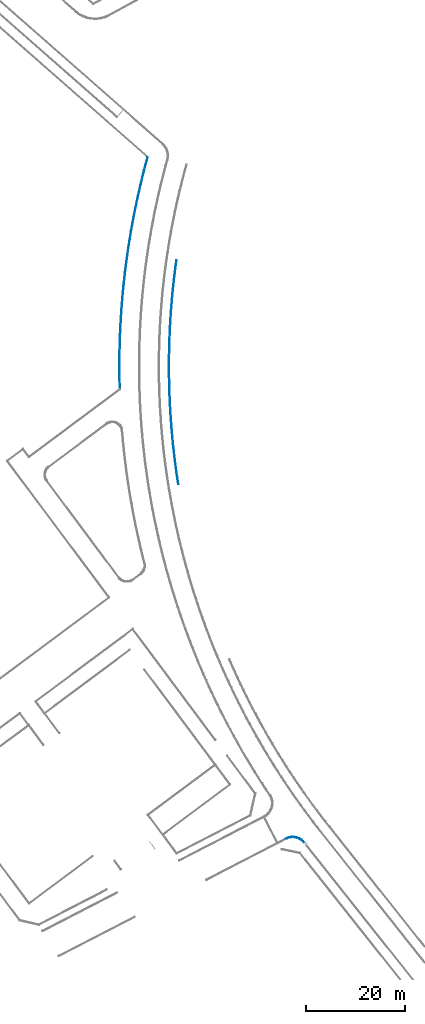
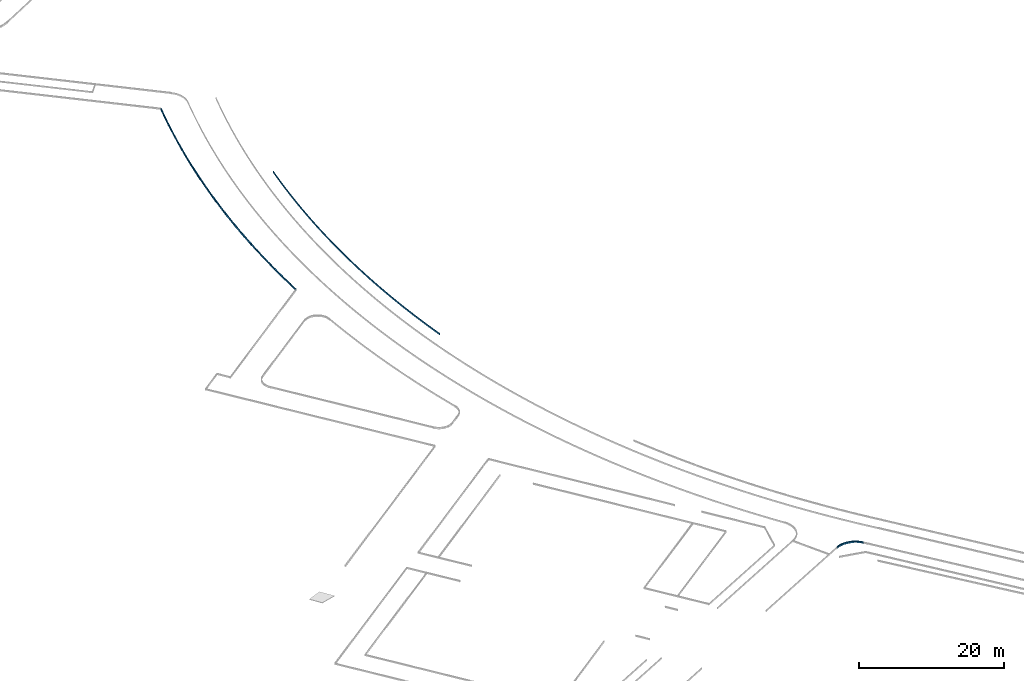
# One storey, part 19 of 24: 3 beams.
"""IFC2X3 building model written with IfcOpenShell, lengths in millimetres."""

from ifc_helpers import new_model, entity, si_unit, converted_unit, derived_unit, direction, frame, origin, place, context, subcontext, project, spatial, faceted_brep, material, type_object, element, save


model = new_model("IFC2X3")

# Units and contexts
model_context = context("Model", 3, precision=0.01, world=origin(), true_north=direction((6.123031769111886e-17, 1.0)))
body_context = subcontext(model_context, "Body", "Model", "MODEL_VIEW")
ifc_project = project(units=[si_unit("LENGTHUNIT", "METRE", prefix="MILLI"), si_unit("AREAUNIT", "SQUARE_METRE"), si_unit("VOLUMEUNIT", "CUBIC_METRE"), converted_unit("PLANEANGLEUNIT", "DEGREE", entity("IfcRatioMeasure", 0.017453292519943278), si_unit("PLANEANGLEUNIT", "RADIAN"), dimensions=[0, 0, 0, 0, 0, 0, 0]), si_unit("MASSUNIT", "GRAM", prefix="KILO"), derived_unit("MASSDENSITYUNIT", [(si_unit("MASSUNIT", "GRAM", prefix="KILO"), 1), (si_unit("LENGTHUNIT", "METRE"), -3)]), derived_unit("MOMENTOFINERTIAUNIT", [(si_unit("LENGTHUNIT", "METRE"), 4)]), si_unit("TIMEUNIT", "SECOND"), si_unit("FREQUENCYUNIT", "HERTZ"), si_unit("THERMODYNAMICTEMPERATUREUNIT", "DEGREE_CELSIUS"), derived_unit("THERMALTRANSMITTANCEUNIT", [(si_unit("MASSUNIT", "GRAM", prefix="KILO"), 1), (si_unit("THERMODYNAMICTEMPERATUREUNIT", "KELVIN"), -1), (si_unit("TIMEUNIT", "SECOND"), -3)]), derived_unit("THERMALCONDUCTANCEUNIT", [(si_unit("MASSUNIT", "GRAM", prefix="KILO"), 1), (si_unit("LENGTHUNIT", "METRE"), 1), (si_unit("THERMODYNAMICTEMPERATUREUNIT", "KELVIN"), -1), (si_unit("TIMEUNIT", "SECOND"), -3)]), derived_unit("VOLUMETRICFLOWRATEUNIT", [(si_unit("LENGTHUNIT", "METRE"), 3), (si_unit("TIMEUNIT", "SECOND"), -1)]), derived_unit("MASSFLOWRATEUNIT", [(si_unit("MASSUNIT", "GRAM", prefix="KILO"), 1), (si_unit("TIMEUNIT", "SECOND"), -1)]), derived_unit("ROTATIONALFREQUENCYUNIT", [(si_unit("TIMEUNIT", "SECOND"), -1)]), si_unit("ELECTRICCURRENTUNIT", "AMPERE"), si_unit("ELECTRICVOLTAGEUNIT", "VOLT"), si_unit("POWERUNIT", "WATT"), converted_unit("FORCEUNIT", "KIP", entity("IfcRatioMeasure", 2.088543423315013e-05), si_unit("FORCEUNIT", "NEWTON"), dimensions=[1, 1, -2, 0, 0, 0, 0]), si_unit("ILLUMINANCEUNIT", "LUX"), si_unit("LUMINOUSFLUXUNIT", "LUMEN"), si_unit("LUMINOUSINTENSITYUNIT", "CANDELA"), derived_unit("USERDEFINED", [(si_unit("MASSUNIT", "GRAM", prefix="KILO"), -1), (si_unit("LENGTHUNIT", "METRE"), -2), (si_unit("TIMEUNIT", "SECOND"), 3), (si_unit("LUMINOUSFLUXUNIT", "LUMEN"), 1)]), derived_unit("USERDEFINED", [(si_unit("MASSUNIT", "GRAM", prefix="KILO"), 1), (si_unit("LENGTHUNIT", "METRE"), 3), (si_unit("TIMEUNIT", "SECOND"), -3), (si_unit("ELECTRICCURRENTUNIT", "AMPERE"), -2)]), derived_unit("USERDEFINED", [(si_unit("LENGTHUNIT", "METRE"), 2), (si_unit("TIMEUNIT", "SECOND"), -2)]), derived_unit("SOUNDPOWERUNIT", [(si_unit("MASSUNIT", "GRAM", prefix="KILO"), 1), (si_unit("LENGTHUNIT", "METRE"), 2), (si_unit("TIMEUNIT", "SECOND"), -3)]), derived_unit("SOUNDPRESSUREUNIT", [(si_unit("MASSUNIT", "GRAM", prefix="KILO"), 1), (si_unit("LENGTHUNIT", "METRE"), -1), (si_unit("TIMEUNIT", "SECOND"), -2)]), derived_unit("LINEARVELOCITYUNIT", [(si_unit("LENGTHUNIT", "METRE"), 1), (si_unit("TIMEUNIT", "SECOND"), -1)]), si_unit("PRESSUREUNIT", "PASCAL"), derived_unit("USERDEFINED", [(si_unit("LENGTHUNIT", "METRE"), -2), (si_unit("MASSUNIT", "GRAM", prefix="KILO"), 1), (si_unit("TIMEUNIT", "SECOND"), -2)]), derived_unit("LINEARFORCEUNIT", [(si_unit("MASSUNIT", "GRAM", prefix="KILO"), 1), (si_unit("LENGTHUNIT", "METRE"), 1), (si_unit("TIMEUNIT", "SECOND"), -2), (si_unit("LENGTHUNIT", "METRE"), -1)]), derived_unit("PLANARFORCEUNIT", [(si_unit("MASSUNIT", "GRAM", prefix="KILO"), 1), (si_unit("LENGTHUNIT", "METRE"), 1), (si_unit("TIMEUNIT", "SECOND"), -2), (si_unit("LENGTHUNIT", "METRE"), -2)]), derived_unit("SPECIFICHEATCAPACITYUNIT", [(si_unit("LENGTHUNIT", "METRE"), 2), (si_unit("TIMEUNIT", "SECOND"), -2), (si_unit("THERMODYNAMICTEMPERATUREUNIT", "KELVIN"), -1)]), derived_unit("VAPORPERMEABILITYUNIT", [(si_unit("TIMEUNIT", "SECOND"), 1), (si_unit("LENGTHUNIT", "METRE"), -1)]), derived_unit("DYNAMICVISCOSITYUNIT", [(si_unit("MASSUNIT", "GRAM", prefix="KILO"), 1), (si_unit("LENGTHUNIT", "METRE"), -1), (si_unit("TIMEUNIT", "SECOND"), -1)]), derived_unit("THERMALEXPANSIONCOEFFICIENTUNIT", [(si_unit("THERMODYNAMICTEMPERATUREUNIT", "KELVIN"), -1)])], contexts=[model_context])

# Site, building, storey
site_placement = place(None, frame((0.0, 0.0, 0.0), z_axis=(0.0, 0.0, 1.0), x_axis=(0.8191520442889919, 0.5735764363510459, 0.0)))
site = spatial("IfcSite", under=ifc_project, at=site_placement, Name="Default", CompositionType="ELEMENT")
building_placement = place(site_placement, origin())
building = spatial("IfcBuilding", under=site, at=building_placement, CompositionType="ELEMENT")
storey_placement = place(building_placement, frame((0.0, 0.0, -1150.0)))
storey = spatial("IfcBuildingStorey", under=building, at=storey_placement, Name="6.EG KH -1.15", CompositionType="ELEMENT", Elevation=-1150.0000000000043)

# Beams
ifc_material = material(Name="Paveta_bordur")
beam_type_1 = type_object("IfcBeamType", Name="Beam-137", PredefinedType="NOTDEFINED")
beam_1_placement = place(storey_placement, frame((-142809.50466419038, 85225.41302990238, 910.0)))
element("IfcBeam", 1, at=beam_1_placement, inside=storey, type_object=beam_type_1, material=ifc_material, Name="Beam-137 237932:Beam-137 237932", ObjectType="Beam-137 237932:Beam-137 237932", context=body_context, shape_type="Brep", body=[
    faceted_brep([(31640.878544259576, 35268.77140396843, 250.0), (31640.878544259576, 35268.77140396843, 0.0), (31577.03952409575, 35345.742694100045, 0.0), (31577.03952409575, 35345.742694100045, 250.0), (1.5952722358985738, 56.51768657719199, 0.0), (85.16278029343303, 1.5952722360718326, 0.0), (85.16278029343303, 1.5952722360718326, 250.0), (1.5952722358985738, 56.51768657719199, 250.0), (9128.534337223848, 12418.570726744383, 0.0), (8257.581605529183, 11326.305158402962, 0.0), (7396.201811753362, 10226.474451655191, 0.0), (6544.460663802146, 9119.162503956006, 0.0), (5702.423134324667, 8004.453783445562, 0.0), (4870.153455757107, 6882.43332250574, 0.0), (4047.715115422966, 5753.186711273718, 0.0), (3235.1708506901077, 4616.800091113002, 0.0), (2432.5826441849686, 3473.3601480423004, 0.0), (1640.0117190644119, 2322.9541061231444, 0.0), (857.5185343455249, 1165.6697208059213, 0.0), (779.5057838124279, 1217.9227549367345, 0.0), (1557.4162953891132, 2379.327823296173, 0.0), (2355.4945042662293, 3526.967866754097, 0.0), (3153.5727131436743, 4674.607910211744, 0.0), (3971.5751074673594, 5808.132757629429, 0.0), (4789.577501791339, 6941.657605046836, 0.0), (5627.254490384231, 8060.721392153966, 0.0), (6464.9314789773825, 9179.785179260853, 0.0), (7322.027467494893, 10284.046454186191, 0.0), (8179.123456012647, 11388.30772911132, 0.0), (9055.376924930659, 12477.429556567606, 0.0), (9931.63039384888, 13566.551384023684, 0.0), (10826.77397825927, 14640.201448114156, 0.0), (11721.917562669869, 15713.851512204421, 0.0), (12635.67813385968, 16771.70221782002, 0.0), (13549.43870504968, 17829.55292343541, 0.0), (14481.53745383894, 18871.281496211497, 0.0), (15413.636202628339, 19913.01006898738, 0.0), (16363.788724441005, 20938.298653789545, 0.0), (17313.94124625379, 21963.587238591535, 0.0), (18281.857627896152, 22972.12299650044, 0.0), (19249.77400953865, 23980.658754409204, 0.0), (20235.158917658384, 24972.13395817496, 0.0), (21220.543825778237, 25963.609161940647, 0.0), (22223.096596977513, 26937.721289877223, 0.0), (23225.64936817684, 27911.833417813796, 0.0), (24245.06410075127, 28868.285246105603, 0.0), (25264.478833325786, 29824.737074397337, 0.0), (26300.444480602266, 30763.23676778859, 0.0), (27336.410127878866, 31701.73646117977, 0.0), (28388.610593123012, 32621.997662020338, 0.0), (29440.811058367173, 33542.25886286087, 0.0), (30242.828050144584, 34219.35155226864, 0.0), (30569.49620574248, 34372.254467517, 0.0), (29505.984804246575, 33466.414398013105, 0.0), (28450.425466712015, 32551.32029488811, 0.0), (27402.89871347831, 31627.041963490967, 0.0), (26363.484452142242, 30693.649909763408, 0.0), (25332.261971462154, 29751.21533486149, 0.0), (24309.309935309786, 28799.81012972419, 0.0), (23294.70637666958, 27839.506869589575, 0.0), (22288.52869168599, 26870.378808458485, 0.0), (21290.853633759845, 25892.499873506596, 0.0), (20301.757307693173, 24905.94465944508, 0.0), (19321.31516388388, 23910.788422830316, 0.0), (18349.601992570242, 22907.107076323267, 0.0), (17386.691918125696, 21894.977182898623, 0.0), (16432.65839340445, 20874.475950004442, 0.0), (15487.574194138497, 19845.681223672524, 0.0), (14551.511413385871, 18808.671482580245, 0.0), (13624.541456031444, 17763.52583206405, 0.0), (12706.73503333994, 16710.323998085, 0.0), (11798.1621575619, 15649.146321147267, 0.0), (10898.892136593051, 14580.073750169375, 0.0), (10008.99356868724, 13503.187836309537, 0.0), (29440.811058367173, 33542.25886286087, 250.0), (30508.925291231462, 34444.00077848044, 250.0), (26300.444480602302, 30763.23676778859, 250.0), (27336.410127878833, 31701.736461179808, 250.0), (25264.478833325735, 29824.737074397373, 250.0), (28388.610593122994, 32621.997662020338, 250.0), (22223.096596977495, 26937.72128987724, 250.0), (23225.649368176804, 27911.833417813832, 250.0), (21220.543825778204, 25963.609161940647, 250.0), (16363.788724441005, 20938.298653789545, 250.0), (17313.941246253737, 21963.587238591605, 250.0), (15413.63620262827, 19913.01006898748, 250.0), (18281.857627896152, 22972.12299650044, 250.0), (19249.774009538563, 23980.658754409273, 250.0), (20235.158917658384, 24972.13395817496, 250.0), (24245.06410075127, 28868.285246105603, 250.0), (11721.917562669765, 15713.851512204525, 250.0), (12635.67813385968, 16771.70221782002, 250.0), (13549.438705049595, 17829.552923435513, 250.0), (14481.53745383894, 18871.281496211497, 250.0), (8179.123456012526, 11388.307729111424, 250.0), (9055.376924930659, 12477.429556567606, 250.0), (9931.630393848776, 13566.551384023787, 250.0), (10826.77397825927, 14640.201448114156, 250.0), (5627.254490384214, 8060.721392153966, 250.0), (6464.931478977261, 9179.785179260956, 250.0), (4789.577501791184, 6941.657605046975, 250.0), (973.3047567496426, 1507.2608035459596, 250.0), (1557.4162953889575, 2379.3278232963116, 250.0), (2355.4945042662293, 3526.967866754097, 250.0), (3153.5727131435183, 4674.607910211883, 250.0), (3971.5751074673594, 5808.132757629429, 250.0), (7322.027467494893, 10284.046454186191, 250.0), (9128.534337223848, 12418.570726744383, 250.0), (10008.99356868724, 13503.187836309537, 250.0), (10898.892136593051, 14580.073750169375, 250.0), (11798.1621575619, 15649.146321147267, 250.0), (12706.73503333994, 16710.323998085, 250.0), (13624.541456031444, 17763.52583206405, 250.0), (14551.511413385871, 18808.671482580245, 250.0), (15487.574194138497, 19845.681223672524, 250.0), (16432.65839340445, 20874.475950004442, 250.0), (17386.691918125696, 21894.977182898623, 250.0), (18349.601992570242, 22907.107076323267, 250.0), (19321.31516388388, 23910.788422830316, 250.0), (20301.757307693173, 24905.94465944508, 250.0), (21290.853633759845, 25892.499873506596, 250.0), (22288.52869168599, 26870.378808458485, 250.0), (23294.70637666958, 27839.506869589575, 250.0), (24309.309935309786, 28799.81012972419, 250.0), (25332.261971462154, 29751.21533486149, 250.0), (26363.484452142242, 30693.649909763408, 250.0), (27402.89871347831, 31627.041963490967, 250.0), (28450.425466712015, 32551.32029488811, 250.0), (29505.984804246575, 33466.414398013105, 250.0), (30569.49620574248, 34372.254467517, 250.0), (857.5185343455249, 1165.6697208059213, 250.0), (1640.0117190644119, 2322.9541061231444, 250.0), (2432.5826441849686, 3473.3601480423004, 250.0), (3235.1708506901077, 4616.800091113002, 250.0), (4047.715115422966, 5753.186711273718, 250.0), (4870.153455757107, 6882.43332250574, 250.0), (5702.423134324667, 8004.453783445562, 250.0), (6544.460663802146, 9119.162503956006, 250.0), (7396.201811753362, 10226.474451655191, 250.0), (8257.581605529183, 11326.305158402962, 250.0)], [[[0, 1, 2, 3]], [[4, 5, 6, 7]], [[8, 9, 10, 11, 12, 13, 14, 15, 16, 17, 18, 5, 4, 19, 20, 21, 22, 23, 24, 25, 26, 27, 28, 29, 30, 31, 32, 33, 34, 35, 36, 37, 38, 39, 40, 41, 42, 43, 44, 45, 46, 47, 48, 49, 50, 51, 2, 1, 52, 53, 54, 55, 56, 57, 58, 59, 60, 61, 62, 63, 64, 65, 66, 67, 68, 69, 70, 71, 72, 73]], [[2, 51, 50, 74, 75, 3]], [[76, 77, 48, 47, 46, 78]], [[48, 77, 79, 74, 50, 49]], [[80, 81, 44, 43, 42, 82]], [[83, 84, 38, 37, 36, 85]], [[86, 87, 40, 39, 38, 84]], [[88, 82, 42, 41, 40, 87]], [[89, 78, 46, 45, 44, 81]], [[32, 90, 91, 92, 34, 33]], [[85, 36, 35, 34, 92, 93]], [[28, 94, 95, 96, 30, 29]], [[90, 32, 31, 30, 96, 97]], [[98, 99, 26, 25, 24, 100]], [[19, 4, 7, 101, 102, 20]], [[103, 104, 22, 21, 20, 102]], [[105, 100, 24, 23, 22, 104]], [[106, 94, 28, 27, 26, 99]], [[107, 108, 109, 110, 111, 112, 113, 114, 115, 116, 117, 118, 119, 120, 121, 122, 123, 124, 125, 126, 127, 128, 129, 0, 3, 75, 74, 79, 77, 76, 78, 89, 81, 80, 82, 88, 87, 86, 84, 83, 85, 93, 92, 91, 90, 97, 96, 95, 94, 106, 99, 98, 100, 105, 104, 103, 102, 101, 7, 6, 130, 131, 132, 133, 134, 135, 136, 137, 138, 139]], [[52, 1, 0, 129]], [[53, 52, 129, 128]], [[54, 53, 128, 127]], [[126, 125, 56, 55]], [[124, 123, 58, 57]], [[125, 124, 57, 56]], [[127, 126, 55, 54]], [[122, 121, 60, 59]], [[120, 119, 62, 61]], [[121, 120, 61, 60]], [[118, 117, 64, 63]], [[115, 114, 67, 66]], [[116, 115, 66, 65]], [[117, 116, 65, 64]], [[119, 118, 63, 62]], [[123, 122, 59, 58]], [[114, 113, 68, 67]], [[112, 111, 70, 69]], [[110, 109, 72, 71]], [[111, 110, 71, 70]], [[108, 107, 8, 73]], [[139, 138, 10, 9]], [[107, 139, 9, 8]], [[109, 108, 73, 72]], [[137, 136, 12, 11]], [[135, 134, 14, 13]], [[136, 135, 13, 12]], [[133, 132, 16, 15]], [[130, 6, 5, 18]], [[131, 130, 18, 17]], [[132, 131, 17, 16]], [[134, 133, 15, 14]], [[138, 137, 11, 10]], [[112, 69, 68, 113]]]),
])
beam_type_2 = type_object("IfcBeamType", Name="Beam-136", PredefinedType="NOTDEFINED")
beam_2_placement = place(storey_placement, frame((-144124.5834903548, 62706.1722207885, 910.0)))
element("IfcBeam", 2, at=beam_2_placement, inside=storey, type_object=beam_type_2, material=ifc_material, Name="Beam-136 237969:Beam-136 237969", ObjectType="Beam-136 237969:Beam-136 237969", context=body_context, shape_type="Brep", body=[
    faceted_brep([(25810.35093714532, 37376.39168875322, 250.0), (25810.35093714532, 37376.39168875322, 0.0), (25737.246666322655, 37444.62485948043, 0.0), (25737.246666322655, 37444.62485948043, 250.0), (1.5952722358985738, 45.49563376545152, 0.0), (91.44380175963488, 1.5952722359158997, 0.0), (91.44380175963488, 1.5952722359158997, 250.0), (1.5952722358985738, 45.49563376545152, 250.0), (7417.300144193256, 13288.091744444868, 0.0), (6697.458079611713, 12110.87641762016, 0.0), (5988.220525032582, 10927.241923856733, 0.0), (5289.644718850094, 9737.28378733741, 0.0), (4601.787039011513, 8541.098042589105, 0.0), (3924.7029984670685, 7338.781226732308, 0.0), (3258.4472406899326, 6130.430371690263, 0.0), (2603.0735352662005, 4916.142996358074, 0.0), (1958.6347735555, 3696.0170987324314, 0.0), (1325.1829644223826, 2470.1511480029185, 0.0), (702.7692300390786, 1238.6440766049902, 0.0), (618.8664656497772, 1280.577146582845, 0.0), (1236.1376590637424, 2515.658659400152, 0.0), (1875.498928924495, 3739.4508133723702, 0.0), (2514.8601987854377, 4963.242967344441, 0.0), (3176.1051528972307, 6175.3507101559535, 0.0), (3837.350107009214, 7387.4584529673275, 0.0), (4520.26528890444, 8587.490504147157, 0.0), (5203.1804707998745, 9787.522555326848, 0.0), (5907.545428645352, 10975.091532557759, 0.0), (6611.910386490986, 12162.660509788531, 0.0), (7337.497744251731, 13337.383053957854, 0.0), (8063.0851020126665, 14512.105598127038, 0.0), (8809.660632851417, 15673.602497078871, 0.0), (9556.236163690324, 16835.099396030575, 0.0), (10323.558865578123, 17982.99570697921, 0.0), (11090.881567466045, 19130.89201792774, 0.0), (11873.610354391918, 20268.35594307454, 0.0), (12671.587305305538, 21395.1579910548, 0.0), (13469.564256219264, 22521.960039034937, 0.0), (14287.656747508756, 23634.24361133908, 0.0), (15105.749238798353, 24746.52718364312, 0.0), (15943.693182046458, 25843.9332240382, 0.0), (16781.637125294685, 26941.339264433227, 0.0), (17639.162023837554, 28023.51351930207, 0.0), (18496.686922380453, 29105.687774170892, 0.0), (19373.515958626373, 30172.28090686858, 0.0), (20250.344994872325, 31238.874039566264, 0.0), (21146.195119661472, 32289.5417431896, 0.0), (22042.04524445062, 33340.209446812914, 0.0), (22956.627268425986, 34374.61255534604, 0.0), (23871.209292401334, 35409.015663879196, 0.0), (24580.990502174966, 36183.2965961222, 0.0), (24873.37047601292, 36363.43752438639, 0.0), (23945.527653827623, 35342.10691142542, 0.0), (23026.897351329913, 34312.482275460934, 0.0), (22117.55370577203, 33274.646711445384, 0.0), (21217.570104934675, 32228.68397698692, 0.0), (20327.01918120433, 31174.678485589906, 0.0), (19445.97280571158, 30112.715299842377, 0.0), (18574.50208253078, 29042.880124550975, 0.0), (17712.67734294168, 27965.259299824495, 0.0), (16860.56813975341, 26879.939794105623, 0.0), (16018.243241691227, 25787.00919715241, 0.0), (15185.770627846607, 24686.555712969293, 0.0), (14363.217482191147, 23578.668152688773, 0.0), (13550.650188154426, 22463.43592740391, 0.0), (12748.134323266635, 21340.949040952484, 0.0), (11955.734653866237, 20211.298082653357, 0.0), (11173.515129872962, 19074.574219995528, 0.0), (10401.538879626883, 17930.869191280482, 0.0), (9639.868204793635, 16780.275298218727, 0.0), (8888.564575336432, 15622.885398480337, 0.0), (8147.688624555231, 14458.792898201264, 0.0), (23871.209292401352, 35409.01566387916, 250.0), (24804.227979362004, 36426.82026167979, 250.0), (21146.195119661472, 32289.5417431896, 250.0), (22042.04524445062, 33340.209446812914, 250.0), (20250.344994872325, 31238.874039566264, 250.0), (22956.627268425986, 34374.61255534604, 250.0), (17639.162023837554, 28023.51351930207, 250.0), (18496.68692238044, 29105.687774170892, 250.0), (16781.637125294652, 26941.339264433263, 250.0), (12671.587305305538, 21395.1579910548, 250.0), (13469.56425621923, 22521.960039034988, 250.0), (11873.610354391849, 20268.35594307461, 250.0), (14287.656747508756, 23634.24361133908, 250.0), (15105.749238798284, 24746.527183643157, 250.0), (15943.693182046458, 25843.9332240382, 250.0), (19373.515958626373, 30172.28090686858, 250.0), (6611.910386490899, 12162.6605097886, 250.0), (7337.497744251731, 13337.383053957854, 250.0), (8063.085102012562, 14512.105598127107, 250.0), (11090.881567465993, 19130.892017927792, 250.0), (9556.236163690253, 16835.099396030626, 250.0), (10323.558865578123, 17982.99570697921, 250.0), (8809.660632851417, 15673.602497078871, 250.0), (5203.180470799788, 9787.522555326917, 250.0), (3837.3501070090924, 7387.458452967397, 250.0), (4520.26528890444, 8587.490504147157, 250.0), (766.5567415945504, 1576.0866914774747, 250.0), (1236.1376590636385, 2515.658659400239, 250.0), (1875.498928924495, 3739.4508133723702, 250.0), (2514.8601987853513, 4963.242967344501, 250.0), (3176.1051528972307, 6175.3507101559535, 250.0), (5907.545428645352, 10975.091532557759, 250.0), (7417.300144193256, 13288.091744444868, 250.0), (8147.688624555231, 14458.792898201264, 250.0), (8888.564575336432, 15622.885398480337, 250.0), (9639.868204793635, 16780.275298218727, 250.0), (10401.538879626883, 17930.869191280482, 250.0), (11173.515129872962, 19074.574219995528, 250.0), (11955.734653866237, 20211.298082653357, 250.0), (12748.134323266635, 21340.949040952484, 250.0), (13550.650188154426, 22463.43592740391, 250.0), (14363.217482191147, 23578.668152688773, 250.0), (15185.770627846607, 24686.555712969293, 250.0), (16018.243241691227, 25787.00919715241, 250.0), (16860.56813975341, 26879.939794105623, 250.0), (17712.67734294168, 27965.259299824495, 250.0), (18574.50208253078, 29042.880124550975, 250.0), (19445.97280571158, 30112.715299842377, 250.0), (20327.01918120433, 31174.678485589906, 250.0), (21217.570104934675, 32228.68397698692, 250.0), (22117.55370577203, 33274.646711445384, 250.0), (23026.897351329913, 34312.482275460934, 250.0), (23945.527653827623, 35342.10691142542, 250.0), (24873.37047601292, 36363.43752438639, 250.0), (702.7692300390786, 1238.6440766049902, 250.0), (1325.1829644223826, 2470.1511480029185, 250.0), (1958.6347735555, 3696.0170987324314, 250.0), (2603.0735352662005, 4916.142996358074, 250.0), (3258.4472406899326, 6130.430371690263, 250.0), (3924.7029984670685, 7338.781226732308, 250.0), (4601.787039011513, 8541.098042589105, 250.0), (5289.644718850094, 9737.28378733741, 250.0), (5988.220525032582, 10927.241923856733, 250.0), (6697.458079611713, 12110.87641762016, 250.0)], [[[0, 1, 2, 3]], [[4, 5, 6, 7]], [[8, 9, 10, 11, 12, 13, 14, 15, 16, 17, 18, 5, 4, 19, 20, 21, 22, 23, 24, 25, 26, 27, 28, 29, 30, 31, 32, 33, 34, 35, 36, 37, 38, 39, 40, 41, 42, 43, 44, 45, 46, 47, 48, 49, 50, 2, 1, 51, 52, 53, 54, 55, 56, 57, 58, 59, 60, 61, 62, 63, 64, 65, 66, 67, 68, 69, 70, 71]], [[2, 50, 49, 72, 73, 3]], [[74, 75, 47, 46, 45, 76]], [[47, 75, 77, 72, 49, 48]], [[78, 79, 43, 42, 41, 80]], [[81, 82, 37, 36, 35, 83]], [[84, 85, 39, 38, 37, 82]], [[86, 80, 41, 40, 39, 85]], [[87, 76, 45, 44, 43, 79]], [[28, 88, 89, 90, 30, 29]], [[91, 34, 33, 32, 92, 93]], [[30, 90, 94, 92, 32, 31]], [[95, 26, 25, 24, 96, 97]], [[35, 34, 91, 83]], [[19, 4, 7, 98, 99, 20]], [[100, 101, 22, 21, 20, 99]], [[102, 96, 24, 23, 22, 101]], [[103, 88, 28, 27, 26, 95]], [[104, 105, 106, 107, 108, 109, 110, 111, 112, 113, 114, 115, 116, 117, 118, 119, 120, 121, 122, 123, 124, 125, 0, 3, 73, 72, 77, 75, 74, 76, 87, 79, 78, 80, 86, 85, 84, 82, 81, 83, 91, 93, 92, 94, 90, 89, 88, 103, 95, 97, 96, 102, 101, 100, 99, 98, 7, 6, 126, 127, 128, 129, 130, 131, 132, 133, 134, 135]], [[51, 1, 0, 125]], [[52, 51, 125, 124]], [[53, 52, 124, 123]], [[122, 121, 55, 54]], [[120, 119, 57, 56]], [[121, 120, 56, 55]], [[123, 122, 54, 53]], [[118, 117, 59, 58]], [[116, 115, 61, 60]], [[117, 116, 60, 59]], [[114, 113, 63, 62]], [[111, 110, 66, 65]], [[112, 111, 65, 64]], [[113, 112, 64, 63]], [[115, 114, 62, 61]], [[119, 118, 58, 57]], [[110, 109, 67, 66]], [[109, 108, 68, 67]], [[107, 106, 70, 69]], [[108, 107, 69, 68]], [[105, 104, 8, 71]], [[135, 134, 10, 9]], [[104, 135, 9, 8]], [[106, 105, 71, 70]], [[133, 132, 12, 11]], [[131, 130, 14, 13]], [[132, 131, 13, 12]], [[129, 128, 16, 15]], [[126, 6, 5, 18]], [[127, 126, 18, 17]], [[128, 127, 17, 16]], [[130, 129, 15, 14]], [[134, 133, 11, 10]]]),
])
beam_type_3 = type_object("IfcBeamType", Name="Beam-166", PredefinedType="NOTDEFINED")
beam_3_placement = place(storey_placement, frame((-167414.0564397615, -11400.174351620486, 910.0)))
element("IfcBeam", 3, at=beam_3_placement, inside=storey, type_object=beam_type_3, material=ifc_material, Name="Beam-166 262470:Beam-166 262470", ObjectType="Beam-166 262470:Beam-166 262470", context=body_context, shape_type="Brep", body=[
    faceted_brep([(2551.8022192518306, 1.5952722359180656, 250.0), (2551.8022192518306, 1.5952722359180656, 0.0), (2651.6181009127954, 7.660729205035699, 0.0), (2651.6181009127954, 7.660729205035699, 250.0), (15.020663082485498, 2846.869678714, 0.0), (1.5952722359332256, 2747.7749821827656, 0.0), (1.5952722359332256, 2747.7749821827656, 250.0), (15.020663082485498, 2846.869678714, 250.0), (1415.1966135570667, 2279.90930205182, 0.0), (1707.5355126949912, 2035.0009119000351, 0.0), (1967.0483189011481, 1755.5456293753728, 0.0), (2189.68280937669, 1445.9070736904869, 0.0), (2371.9626063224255, 1110.9201677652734, 0.0), (2511.0414596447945, 755.815642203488, 0.0), (2604.7476903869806, 386.1383588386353, 0.0), (2533.7654643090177, 194.0624869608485, 0.0), (2503.1703054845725, 384.9365017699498, 0.0), (2460.14794605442, 573.3987787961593, 0.0), (2404.8828816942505, 758.6411225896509, 0.0), (2337.6121092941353, 939.8691459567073, 0.0), (2258.6241106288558, 1116.30567658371, 0.0), (2168.257615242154, 1287.1940898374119, 0.0), (2066.9001478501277, 1451.8015534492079, 0.0), (1954.9863664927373, 1609.4221701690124, 0.0), (1832.9961985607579, 1759.3800049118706, 0.0), (1701.4527826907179, 1901.0319834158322, 0.0), (1560.9202253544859, 2033.770649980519, 0.0), (1412.0011817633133, 2157.026772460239, 0.0), (1255.3342714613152, 2270.2717833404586, 0.0), (1091.5913396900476, 2373.0200464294, 0.0), (921.4745762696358, 2464.830939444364, 0.0), (745.7135043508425, 2545.310743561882, 0.0), (565.0618519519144, 2614.114331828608, 0.0), (380.294319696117, 2670.9466491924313, 0.0), (192.2032586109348, 2715.5639778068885, 0.0), (388.9995871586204, 2772.1574584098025, 0.0), (750.7410027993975, 2651.387844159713, 0.0), (1094.5964149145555, 2486.446621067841, 0.0), (2604.7476903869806, 386.1383588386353, 250.0), (2511.0414596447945, 755.815642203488, 250.0), (2371.9626063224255, 1110.9201677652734, 250.0), (2189.68280937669, 1445.9070736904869, 250.0), (1967.0483189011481, 1755.545629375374, 250.0), (1707.5355126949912, 2035.0009119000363, 250.0), (1415.1966135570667, 2279.909302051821, 250.0), (1094.5964149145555, 2486.4466210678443, 250.0), (750.7410027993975, 2651.387844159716, 250.0), (388.9995871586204, 2772.1574584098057, 250.0), (1255.3342714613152, 2270.2717833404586, 250.0), (1412.0011817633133, 2157.026772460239, 250.0), (1560.9202253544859, 2033.770649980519, 250.0), (1701.4527826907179, 1901.0319834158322, 250.0), (1832.9961985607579, 1759.3800049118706, 250.0), (1954.9863664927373, 1609.4221701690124, 250.0), (2066.9001478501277, 1451.8015534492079, 250.0), (2168.257615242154, 1287.1940898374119, 250.0), (2258.6241106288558, 1116.30567658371, 250.0), (2337.6121092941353, 939.8691459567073, 250.0), (2404.8828816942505, 758.6411225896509, 250.0), (2460.14794605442, 573.3987787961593, 250.0), (2503.1703054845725, 384.9365017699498, 250.0), (2533.7654643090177, 194.0624869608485, 250.0), (192.2032586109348, 2715.5639778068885, 250.0), (380.294319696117, 2670.9466491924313, 250.0), (565.0618519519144, 2614.114331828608, 250.0), (745.7135043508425, 2545.310743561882, 250.0), (921.4745762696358, 2464.830939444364, 250.0), (1091.5913396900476, 2373.0200464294, 250.0)], [[[0, 1, 2, 3]], [[4, 5, 6, 7]], [[8, 9, 10, 11, 12, 13, 14, 2, 1, 15, 16, 17, 18, 19, 20, 21, 22, 23, 24, 25, 26, 27, 28, 29, 30, 31, 32, 33, 34, 5, 4, 35, 36, 37]], [[38, 3, 2, 14]], [[38, 14, 13, 39]], [[40, 12, 11, 41]], [[12, 40, 39, 13]], [[41, 11, 10, 42]], [[10, 9, 43, 42]], [[43, 9, 8, 44]], [[37, 45, 44, 8]], [[46, 36, 35, 47]], [[37, 36, 46, 45]], [[47, 35, 4, 7]], [[48, 49, 50, 51, 52, 53, 54, 55, 56, 57, 58, 59, 60, 61, 0, 3, 38, 39, 40, 41, 42, 43, 44, 45, 46, 47, 7, 6, 62, 63, 64, 65, 66, 67]], [[15, 1, 0, 61]], [[18, 17, 59, 58]], [[60, 16, 15, 61]], [[16, 60, 59, 17]], [[22, 21, 55, 54]], [[23, 22, 54, 53]], [[20, 19, 57, 56]], [[21, 20, 56, 55]], [[19, 18, 58, 57]], [[23, 53, 52, 24]], [[52, 51, 25, 24]], [[28, 27, 49, 48]], [[26, 25, 51, 50]], [[26, 50, 49, 27]], [[29, 28, 48, 67]], [[33, 32, 64, 63]], [[34, 33, 63, 62]], [[31, 30, 66, 65]], [[32, 31, 65, 64]], [[29, 67, 66, 30]], [[5, 34, 62, 6]]]),
])

save(model, "model.ifc")
